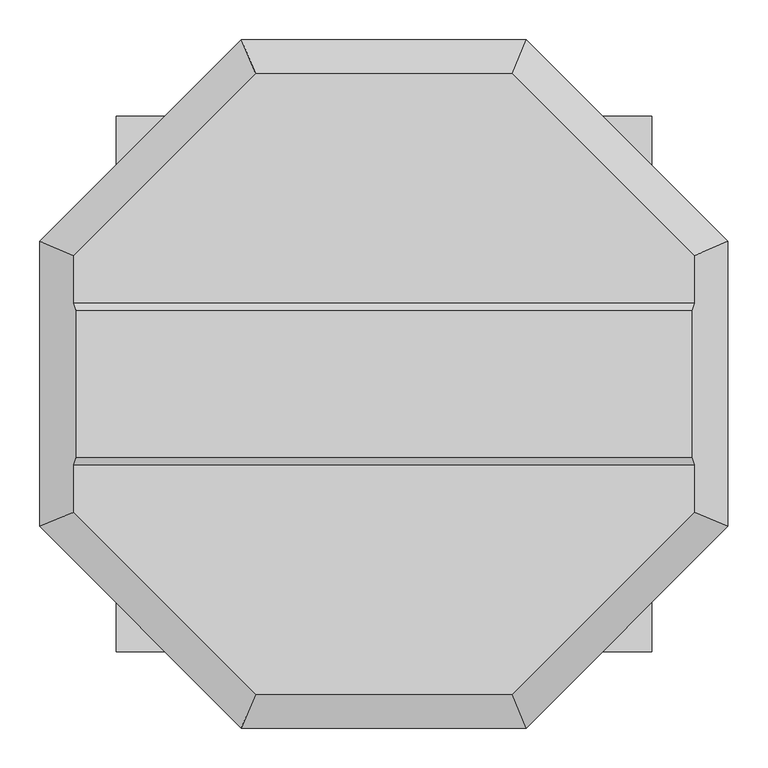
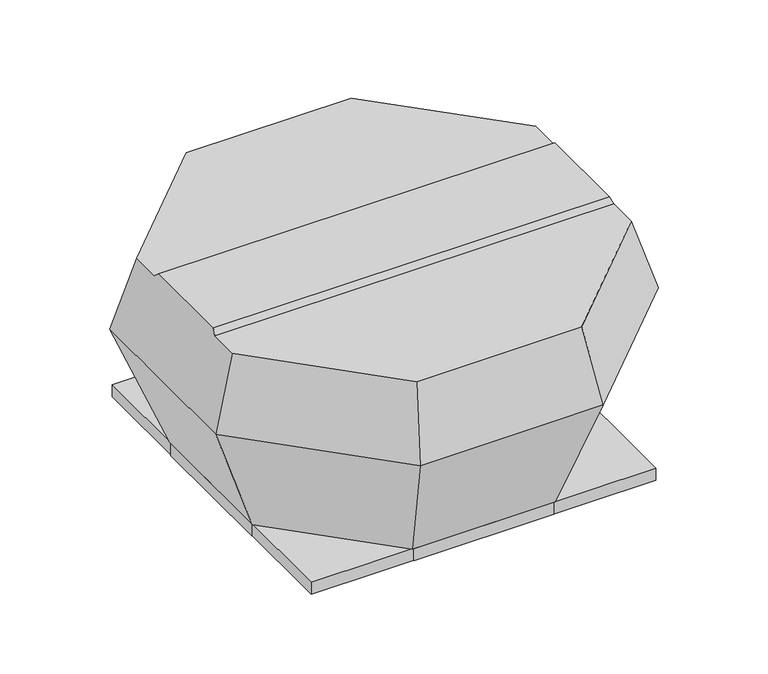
"""IFC4 building model written with IfcOpenShell, lengths in millimetres: unitary equipment geometry, VE-Wentylator-ParaForma-Harmann-VIVO-Wywiewny : 4-450/5800T."""

import ifcopenshell
import ifcopenshell.guid

model = None  # the IFC model being written
_history = None  # IfcOwnerHistory: only IFC2X3 demands one
_inside = {}  # id of a spatial element -> (the spatial element, [elements in it])
_under = {}  # id of a project, library or spatial element -> (it, [spatial elements below it])
_declared = {}  # id of a project -> (the project, [libraries it declares])
_typed = {}  # id of a type object -> (the type object, [elements of that type])
_made_of = {}  # id of a material, layer set ... -> (it, [elements and type objects made of it])


def new_model(schema):
    """Start an empty IFC model of exactly this schema.

    Asked for "IFC4X3", IfcOpenShell would pick the latest addendum, in which some entities
    have other attributes; the version numbers below select the first issue.
    IFC2X3 requires an IfcOwnerHistory on every rooted entity: one is made here for all.
    """
    global model, _history
    if schema == "IFC4X3":
        model = ifcopenshell.file(schema_version=(4, 3, 0, 0))
    else:
        model = ifcopenshell.file(schema=schema)
    _inside.clear()
    _under.clear()
    _declared.clear()
    _typed.clear()
    _made_of.clear()
    _history = None
    if model.schema == "IFC2X3":
        org = make("IfcOrganization", Name="unknown")
        user = make(
            "IfcPersonAndOrganization",
            ThePerson=make("IfcPerson", FamilyName="unknown"),
            TheOrganization=org,
        )
        app = make(
            "IfcApplication",
            ApplicationDeveloper=org,
            Version="unknown",
            ApplicationFullName="unknown",
            ApplicationIdentifier="unknown",
        )
        _history = make(
            "IfcOwnerHistory",
            OwningUser=user,
            OwningApplication=app,
            ChangeAction="ADDED",
            CreationDate=0,
        )
    return model


def make(cls, **values):
    """One entity of the class cls with the attributes given. An attribute that is None is left unset."""
    return model.create_entity(
        cls, **{name: value for name, value in values.items() if value is not None}
    )


def rooted(cls, **values):
    """An entity with a GlobalId (a new one), such as an element, a storey or a relation."""
    return make(cls, GlobalId=ifcopenshell.guid.new(), OwnerHistory=_history, **values)


def si_unit(unit_type, name, prefix=None):
    """IfcSIUnit, for example si_unit("LENGTHUNIT", "METRE", prefix="MILLI")."""
    return make("IfcSIUnit", UnitType=unit_type, Prefix=prefix, Name=name)


def assignment(units):
    """IfcUnitAssignment: the units of a project."""
    return None if units is None else make("IfcUnitAssignment", Units=units)


def point(xyz):
    """IfcCartesianPoint."""
    return None if xyz is None else make("IfcCartesianPoint", Coordinates=xyz)


def direction(xyz):
    """IfcDirection."""
    return None if xyz is None else make("IfcDirection", DirectionRatios=xyz)


def frame(location, z_axis=None, x_axis=None):
    """IfcAxis2Placement3D, a coordinate frame: its origin and axes. An axis left out is left unset."""
    return make(
        "IfcAxis2Placement3D",
        Location=point(location),
        Axis=direction(z_axis),
        RefDirection=direction(x_axis),
    )


def origin():
    """The frame at (0, 0, 0) with its axes left unset."""
    return frame((0.0, 0.0, 0.0))


def place(relative_to, where):
    """IfcLocalPlacement: puts the frame where relative to a parent placement (None: the world)."""
    return make(
        "IfcLocalPlacement", PlacementRelTo=relative_to, RelativePlacement=where
    )


def context(
    kind, dimensions, precision=None, world=None, true_north=None, identifier=None
):
    """IfcGeometricRepresentationContext, for example the 3D "Model" context."""
    return make(
        "IfcGeometricRepresentationContext",
        ContextIdentifier=identifier,
        ContextType=kind,
        CoordinateSpaceDimension=dimensions,
        Precision=precision,
        WorldCoordinateSystem=world,
        TrueNorth=true_north,
    )


def project(units=None, contexts=None):
    """IfcProject with its units and contexts."""
    return rooted(
        "IfcProject",
        Name="project",
        RepresentationContexts=contexts,
        UnitsInContext=assignment(units),
    )


def spatial(cls, under=None, at=None, **own):
    """A site, building, storey or space (cls), placed at a placement, below another one or the project."""
    s = rooted(cls, ObjectPlacement=at, **own)
    if under is not None:
        _under.setdefault(under.id(), (under, []))[1].append(s)
    return s


def faces_of(points, faces, orient=None, outer=None):
    """IfcFace entities. A face is a list of loops; a loop is a list of indices into points, from 0.

    orient and outer hold one flag for each loop. By default every Orientation is true, the
    first loop of a face is its IfcFaceOuterBound and the others are IfcFaceBound.
    """
    made = []
    for i, loops in enumerate(faces):
        bounds = []
        for j, loop in enumerate(loops):
            is_outer = j == 0 if outer is None else outer[i][j]
            bounds.append(
                make(
                    "IfcFaceOuterBound" if is_outer else "IfcFaceBound",
                    Bound=make("IfcPolyLoop", Polygon=[points[k] for k in loop]),
                    Orientation=True if orient is None else orient[i][j],
                )
            )
        made.append(make("IfcFace", Bounds=bounds))
    return made


def faceted_brep(points, faces, orient=None, outer=None, voids=None):
    """IfcFacetedBrep: a solid bounded by flat faces; with voids (closed shells), ...WithVoids."""
    shared = [point(p) for p in points]
    hull = make("IfcClosedShell", CfsFaces=faces_of(shared, faces, orient, outer))
    if voids is None:
        return make("IfcFacetedBrep", Outer=hull)
    return make(
        "IfcFacetedBrepWithVoids",
        Outer=hull,
        Voids=[
            make(cls, CfsFaces=faces_of(shared, fs, o, b)) for cls, fs, o, b in voids
        ],
    )


def shape(context_of_items, identifier, shape_type, items):
    """IfcShapeRepresentation: the items that make up one representation, for example the "Body"."""
    return make(
        "IfcShapeRepresentation",
        ContextOfItems=context_of_items,
        RepresentationIdentifier=identifier,
        RepresentationType=shape_type,
        Items=items,
    )


def source(mapping_origin, context_of_items, identifier, shape_type, items):
    """IfcRepresentationMap: a shape defined once, which mapped items show again and again."""
    return make(
        "IfcRepresentationMap",
        MappingOrigin=mapping_origin,
        MappedRepresentation=shape(context_of_items, identifier, shape_type, items),
    )


def transform(
    local_origin,
    x_axis=None,
    y_axis=None,
    z_axis=None,
    scale=None,
    scale2=None,
    scale3=None,
    uniform=True,
):
    """IfcCartesianTransformationOperator3D, or its non-uniform kind. x_axis, y_axis, z_axis: its Axis1, 2, 3."""
    if uniform:
        return make(
            "IfcCartesianTransformationOperator3D",
            Axis1=direction(x_axis),
            Axis2=direction(y_axis),
            LocalOrigin=point(local_origin),
            Scale=scale,
            Axis3=direction(z_axis),
        )
    return make(
        "IfcCartesianTransformationOperator3DnonUniform",
        Axis1=direction(x_axis),
        Axis2=direction(y_axis),
        LocalOrigin=point(local_origin),
        Scale=scale,
        Axis3=direction(z_axis),
        Scale2=scale2,
        Scale3=scale3,
    )


def mapped(mapping_source, mapping_target):
    """IfcMappedItem: shows the shape of a source again, moved by a transform."""
    return make(
        "IfcMappedItem", MappingSource=mapping_source, MappingTarget=mapping_target
    )


def made_of(thing, what):
    """Note that an element or type object is made of a material, layer set ...; save() writes the relation."""
    if what is not None:
        _made_of.setdefault(what.id(), (what, []))[1].append(thing)
    return thing


def element(
    cls,
    number,
    at=None,
    inside=None,
    cuts=None,
    type_object=None,
    material=None,
    context=None,
    identifier="Body",
    shape_type=None,
    held_by="IfcProductDefinitionShape",
    body=None,
    shapes=None,
    **own,
):
    """One element of the class cls, such as IfcWall. Its Tag is "e" and its number.

    at: its placement. inside: the storey or other place that contains it. cuts: it is an
    opening in that element (IfcRelVoidsElement). A single representation is given by context,
    identifier, shape_type and body (its items); several are given by shapes. held_by: the class
    of the entity that holds the representations. save() writes the other relations.
    """
    e = rooted(cls, Tag="e%d" % number, ObjectPlacement=at, **own)
    if body is not None:
        shapes = [shape(context, identifier, shape_type, body)]
    if shapes is not None:
        e.Representation = make(held_by, Representations=shapes)
    if inside is not None:
        _inside.setdefault(inside.id(), (inside, []))[1].append(e)
    if cuts is not None:
        rooted(
            "IfcRelVoidsElement", RelatingBuildingElement=cuts, RelatedOpeningElement=e
        )
    if type_object is not None:
        _typed.setdefault(type_object.id(), (type_object, []))[1].append(e)
    return made_of(e, material)


def aggregate(whole, parts):
    """IfcRelAggregates: a whole, such as a stair, and the parts it consists of."""
    return rooted("IfcRelAggregates", RelatingObject=whole, RelatedObjects=parts)


def save(model, path):
    """Write the relations noted so far, then the file.

    IfcRelAggregates (storeys below a building ...), IfcRelContainedInSpatialStructure (elements
    in a storey), IfcRelDefinesByType, IfcRelAssociatesMaterial and IfcRelDeclares: one each for
    every whole, place, type object, material and project.
    """
    for whole, parts in _under.values():
        aggregate(whole, parts)
    for where, things in _inside.values():
        rooted(
            "IfcRelContainedInSpatialStructure",
            RelatedElements=things,
            RelatingStructure=where,
        )
    for kind, things in _typed.values():
        rooted("IfcRelDefinesByType", RelatedObjects=things, RelatingType=kind)
    for what, things in _made_of.values():
        rooted("IfcRelAssociatesMaterial", RelatedObjects=things, RelatingMaterial=what)
    for by, libraries in _declared.values():
        rooted("IfcRelDeclares", RelatingContext=by, RelatedDefinitions=libraries)
    model.write(path)


def unitary_equipment_35ece669(model_context):
    return source(origin(), model_context, "Body", "Brep", [
        faceted_brep([(385.0711725, -91.75, 394.6), (385.0711725, 91.75, 394.6), (-385.0711725, 91.75, 394.6), (-385.0711725, -91.75, 394.6), (387.9641195, 101.3, 385.0), (-387.9641195, 101.3, 385.0), (387.9641195, -101.3, 385.0), (-387.9641195, -101.3, 385.0), (160.7, -387.9641195, 385.0), (387.9641195, -160.7, 385.0), (-387.9641195, -160.7, 385.0), (-160.7, -387.9641195, 385.0), (387.9641195, 160.7, 385.0), (160.7, 387.9641195, 385.0), (-160.7, 387.9641195, 385.0), (-387.9641195, 160.7, 385.0), (178.3, -430.4542782, 244.0), (430.4542782, -178.3, 244.0), (430.4542782, 178.3, 244.0), (178.3, 430.4542782, 244.0), (-178.3, 430.4542782, 244.0), (-430.4542782, 178.3, 244.0), (-430.4542782, -178.3, 244.0), (-178.3, -430.4542782, 244.0), (139.25, -336.1792386, 1.5), (-139.25, -336.1792386, 1.5), (-336.1792386, -139.25, 1.5), (-336.1792386, 139.25, 1.5), (-139.25, 336.1792386, 1.5), (139.25, 336.1792386, 1.5), (336.1792386, 139.25, 1.5), (336.1792386, -139.25, 1.5)], [[[0, 1, 2, 3]], [[1, 4, 5, 2]], [[6, 0, 3, 7]], [[8, 9, 6, 7, 10, 11]], [[12, 13, 14, 15, 5, 4]], [[9, 8, 16, 17]], [[9, 17, 18, 12, 4, 1, 0, 6]], [[13, 12, 18, 19]], [[14, 13, 19, 20]], [[15, 14, 20, 21]], [[15, 21, 22, 10, 7, 3, 2, 5]], [[11, 10, 22, 23]], [[8, 11, 23, 16]], [[24, 25, 26, 27, 28, 29, 30, 31]], [[24, 31, 17, 16]], [[31, 30, 18, 17]], [[30, 29, 19, 18]], [[29, 28, 20, 19]], [[28, 27, 21, 20]], [[27, 26, 22, 21]], [[26, 25, 23, 22]], [[25, 24, 16, 23]]]),
        faceted_brep([(333.55, 333.55, -23.5), (333.55, 333.55, 0.0), (-333.55, 333.55, 0.0), (-333.55, 333.55, -23.5), (335.05, 335.05, 1.5), (335.05, 335.05, -23.5), (-335.05, 335.05, -23.5), (-335.05, 335.05, 1.5), (-333.55, -333.55, 0.0), (-333.55, -333.55, -23.5), (-335.05, -335.05, -23.5), (-335.05, -335.05, 1.5), (333.55, -333.55, 0.0), (333.55, -333.55, -23.5), (335.05, -335.05, -23.5), (335.05, -335.05, 1.5)], [[[0, 1, 2, 3]], [[4, 5, 6, 7]], [[3, 2, 8, 9]], [[7, 6, 10, 11]], [[9, 8, 12, 13]], [[11, 10, 14, 15]], [[13, 12, 1, 0]], [[5, 14, 10, 6], [3, 9, 13, 0]], [[15, 14, 5, 4]], [[7, 11, 15, 4]], [[1, 12, 8, 2]]]),
        faceted_brep([(-335.1, -136.1, -23.5), (-336.1, -136.1, -23.5), (-336.1, 136.1, -23.5), (-335.1, 136.1, -23.5), (-335.1, -136.1, 1.5), (-335.1, 136.1, 1.5), (-336.1, 136.1, 1.5), (-336.1, -136.1, 1.5)], [[[0, 1, 2, 3]], [[4, 5, 6, 7]], [[1, 0, 4, 7]], [[2, 1, 7, 6]], [[3, 2, 6, 5]], [[0, 3, 5, 4]]]),
        faceted_brep([(336.1, -136.1, -23.5), (335.1, -136.1, -23.5), (335.1, 136.1, -23.5), (336.1, 136.1, -23.5), (336.1, 136.1, 1.5), (335.1, 136.1, 1.5), (335.1, 5.0, 1.5), (335.1, -5.0, 1.5), (335.1, -136.1, 1.5), (336.1, -136.1, 1.5), (336.1, -5.0, 1.5), (336.1, 5.0, 1.5)], [[[0, 1, 2, 3]], [[4, 5, 6, 7, 8, 9, 10, 11]], [[1, 0, 9, 8]], [[2, 1, 8, 7, 6, 5]], [[3, 2, 5, 4]], [[0, 3, 4, 11, 10, 9]]]),
        faceted_brep([(136.1, 335.1, -23.5), (-136.1, 335.1, -23.5), (-136.1, 336.1, -23.5), (136.1, 336.1, -23.5), (136.1, 335.1, 1.5), (136.1, 336.1, 1.5), (-136.1, 336.1, 1.5), (-136.1, 335.1, 1.5)], [[[0, 1, 2, 3]], [[4, 5, 6, 7]], [[1, 0, 4, 7]], [[2, 1, 7, 6]], [[3, 2, 6, 5]], [[0, 3, 5, 4]]]),
        faceted_brep([(136.1, -336.1, -23.5), (-136.1, -336.1, -23.5), (-136.1, -335.1, -23.5), (136.1, -335.1, -23.5), (136.1, -336.1, 1.5), (136.1, -335.1, 1.5), (-136.1, -335.1, 1.5), (-136.1, -336.1, 1.5)], [[[0, 1, 2, 3]], [[4, 5, 6, 7]], [[1, 0, 4, 7]], [[2, 1, 7, 6]], [[3, 2, 6, 5]], [[0, 3, 5, 4]]]),
    ])


if __name__ == "__main__":
    model = new_model("IFC4")
    model_context = context("Model", 3, world=origin())
    ifc_project = project(units=[si_unit("LENGTHUNIT", "METRE", prefix="MILLI")], contexts=[model_context])
    site = spatial("IfcSite", under=ifc_project)
    building = spatial("IfcBuilding", under=site)
    placement = place(None, origin())
    unitary_equipment_shape = unitary_equipment_35ece669(model_context)
    element("IfcUnitaryEquipment", 1, ObjectType="VE-Wentylator-ParaForma-Harmann-VIVO-Wywiewny : 4-450/5800T", at=placement, inside=building, context=model_context, shape_type="MappedRepresentation", body=[
        mapped(unitary_equipment_shape, transform((0.0, 0.0, 0.0), x_axis=(1.0, 0.0, 0.0), y_axis=(0.0, 1.0, 0.0), z_axis=(0.0, 0.0, 1.0))),
    ])
    save(model, "model.ifc")
